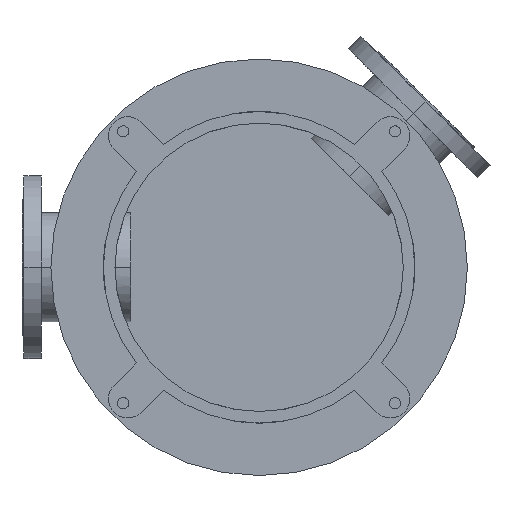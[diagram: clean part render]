
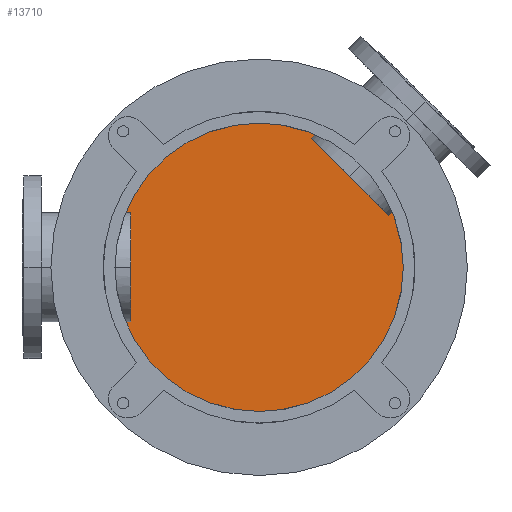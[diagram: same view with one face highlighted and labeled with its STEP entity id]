
A CAD part, front view. The second image highlights one B-rep face of the part: STEP entity #13710.
In plain terms, the highlighted planar face has unit normal (0, -1, 0).
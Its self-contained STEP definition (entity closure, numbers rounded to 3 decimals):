
#3285=CARTESIAN_POINT('',(0.,500.,0.));
#3286=DIRECTION('',(0.,-1.,0.));
#3287=DIRECTION('',(0.,0.,1.));
#3288=AXIS2_PLACEMENT_3D('',#3285,#3286,#3287);
#3418=CARTESIAN_POINT('',(0.,500.,0.));
#3419=DIRECTION('',(0.,-1.,0.));
#3420=DIRECTION('',(0.,0.,-1.));
#3421=AXIS2_PLACEMENT_3D('',#3418,#3419,#3420);
#8646=CARTESIAN_POINT('',(0.,500.,240.));
#8647=CARTESIAN_POINT('',(0.,500.,-240.));
#8648=VERTEX_POINT('',#8646);
#8649=VERTEX_POINT('',#8647);
#13700=CARTESIAN_POINT('',(0.,500.,0.));
#13701=DIRECTION('',(0.,1.,0.));
#13702=DIRECTION('',(0.,0.,-1.));
#13703=AXIS2_PLACEMENT_3D('',#13700,#13701,#13702);
#13704=PLANE('',#13703);
#13705=ORIENTED_EDGE('',*,*,#13684,.F.);
#13707=ORIENTED_EDGE('',*,*,#13706,.F.);
#13708=EDGE_LOOP('',(#13705,#13707));
#13709=FACE_OUTER_BOUND('',#13708,.F.);
#13710=ADVANCED_FACE('',(#13709),#13704,.F.);
#3289=CIRCLE('',#3288,240.);
#3422=CIRCLE('',#3421,240.);
#13684=EDGE_CURVE('',#8648,#8649,#3289,.T.);
#13706=EDGE_CURVE('',#8649,#8648,#3422,.T.);
